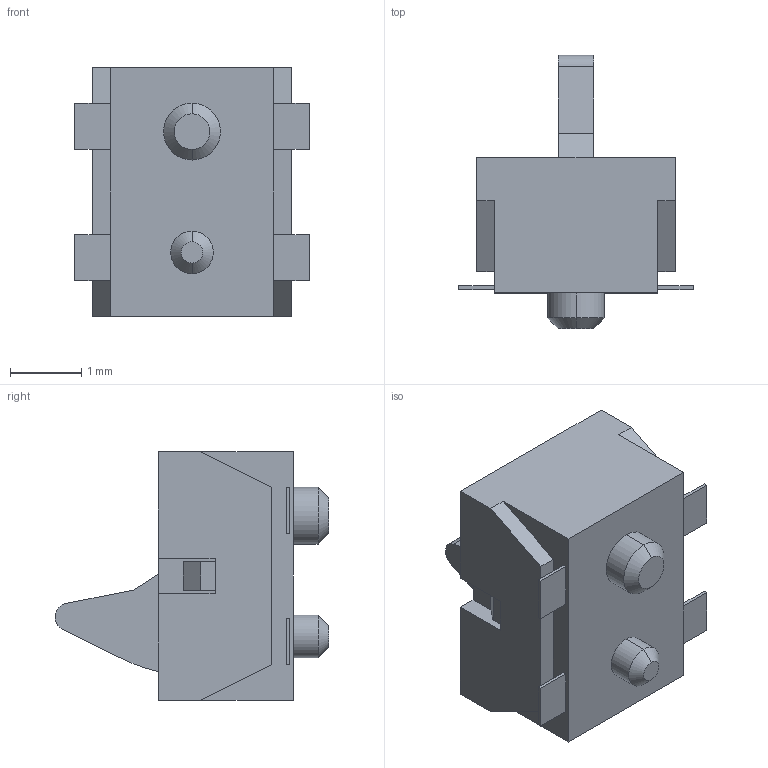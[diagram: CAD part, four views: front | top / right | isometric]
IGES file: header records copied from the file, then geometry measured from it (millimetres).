
Start section:  PTC IGES file: switch-mpu101-127-hch_prt.igs
Global section: file name: switch-mpu101-127-hch_prt.igs; native system: Pro/ENGINEER by Parametric Technology Corporation; preprocessor: 2000030; author: ECaille; organization: Unknown; date: 000803.092138; units: millimetre
Bounding box: 3.3 x 3.85 x 3.5 mm (x, y, z)
Surface area: 52.9 mm2 (no closed solid volume)
Topology: 0 solids, 0 shells, 72 faces, 602 edges, 834 vertices
Faces by surface type: bspline 62, revolution 10
